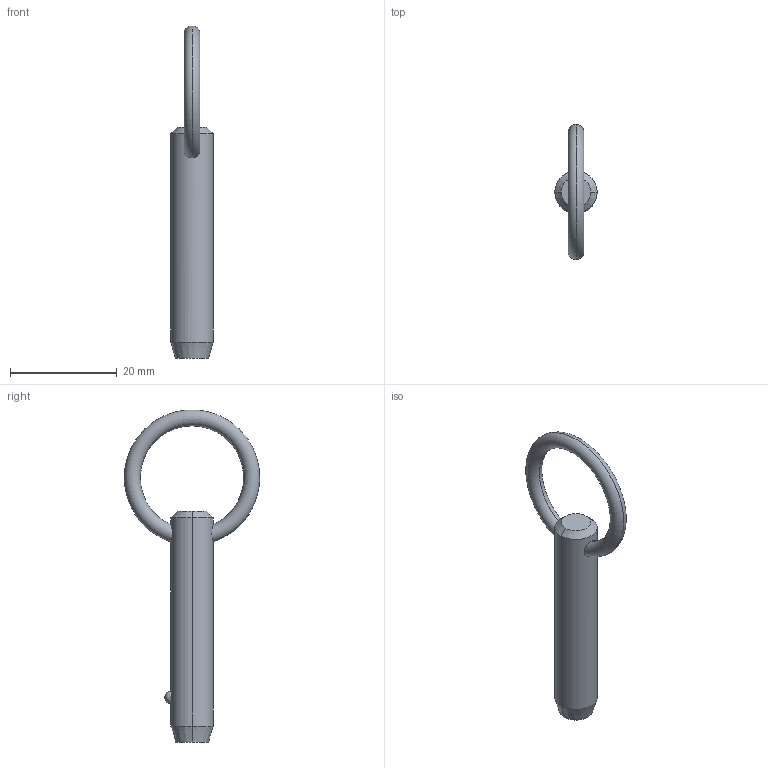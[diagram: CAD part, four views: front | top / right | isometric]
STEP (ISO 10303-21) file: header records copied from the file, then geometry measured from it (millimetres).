
FILE_DESCRIPTION (( 'STEP AP203' ), '1' );
FILE_NAME ('P1250.031-110.step', '2019-07-29T19:48:29', ( '' ), ( '' ), 'SwSTEP 2.0', 'SolidWorks 2017', '' );
FILE_SCHEMA (( 'CONFIG_CONTROL_DESIGN' ));
Length unit declared in the file: millimetre
Products named in the file (1): P1250.031-110
Bounding box: 7.93 x 25.36 x 62.3 mm (x, y, z)
Volume: 2537.6 mm3; surface area: 1713.3 mm2
Topology: 1 solids, 1 shells, 12 faces, 28 edges, 17 vertices
Faces by surface type: cone 4, torus 2, sphere 2, cylinder 2, plane 2
Entity records: 509 total; most frequent: CARTESIAN_POINT 176, DIRECTION 56, ORIENTED_EDGE 48, AXIS2_PLACEMENT_3D 25, EDGE_CURVE 24, EDGE_LOOP 15, VERTEX_POINT 15, ADVANCED_FACE 12
